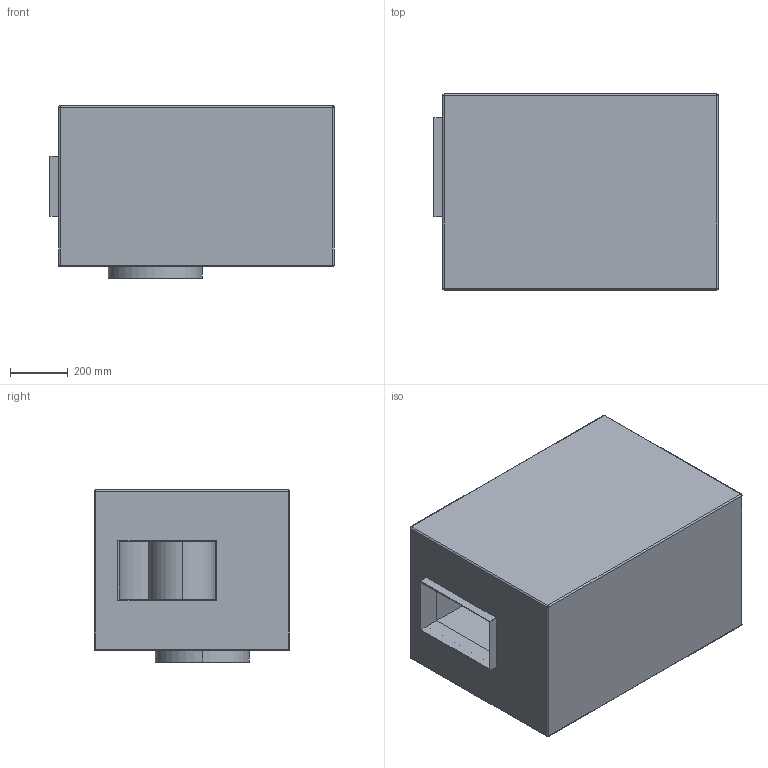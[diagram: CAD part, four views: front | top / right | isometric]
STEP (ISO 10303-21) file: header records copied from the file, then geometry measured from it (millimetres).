
FILE_DESCRIPTION(('STEP AP214'),'1');
FILE_NAME('fan_sptr000119_h.stp','2017-03-31T12:38:30',('TraceParts'),('TraceParts S.A.'),'Spatial InterOp 3D',' ',' ');
FILE_SCHEMA(('automotive_design'));
Length unit declared in the file: millimetre
Products named in the file (1): fan_sptr000119_h
Bounding box: 980 x 675 x 594 mm (x, y, z)
Volume: 139077127.5 mm3; surface area: 7281534.5 mm2
Topology: 1 solids, 1 shells, 145 faces, 377 edges, 230 vertices
Faces by surface type: plane 82, cylinder 51, sphere 8, torus 4
Entity records: 5567 total; most frequent: DIRECTION 801, CARTESIAN_POINT 745, ORIENTED_EDGE 738, EDGE_CURVE 369, AXIS2_PLACEMENT_3D 286, VERTEX_POINT 230, LINE 229, VECTOR 229
